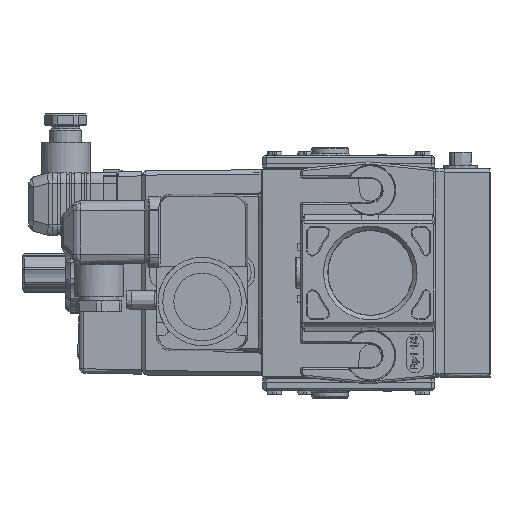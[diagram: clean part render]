
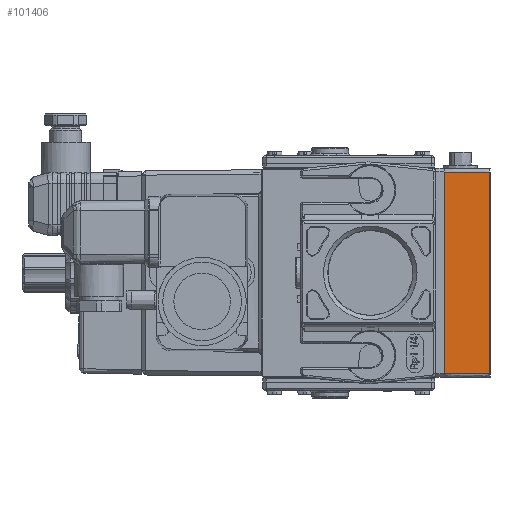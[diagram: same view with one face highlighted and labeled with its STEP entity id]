
A CAD part, left-side view. The second image highlights one B-rep face of the part: STEP entity #101406.
In plain terms, the highlighted planar face has unit normal (1, 0, 0).
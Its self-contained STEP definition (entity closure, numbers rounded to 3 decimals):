
#317 = EDGE_CURVE ( 'NONE', #119576, #90407, #88715, .T. ) ;
#3908 = EDGE_CURVE ( 'NONE', #57159, #119576, #78723, .T. ) ;
#4789 = CARTESIAN_POINT ( 'NONE',  ( -108.928, 46.329, -70.1 ) ) ;
#8202 = DIRECTION ( 'NONE',  ( -1., 0., 0. ) ) ;
#14706 = ORIENTED_EDGE ( 'NONE', *, *, #106606, .F. ) ;
#15677 = DIRECTION ( 'NONE',  ( 0., 0., -1. ) ) ;
#26658 = DIRECTION ( 'NONE',  ( 0., 0., 1. ) ) ;
#28564 = CARTESIAN_POINT ( 'NONE',  ( -108.928, -46.329, -70.1 ) ) ;
#33889 = VECTOR ( 'NONE', #38663, 1000. ) ;
#35661 = CARTESIAN_POINT ( 'NONE',  ( -108.928, 0., -91. ) ) ;
#36807 = CARTESIAN_POINT ( 'NONE',  ( -108.928, -46.329, -80.55 ) ) ;
#38663 = DIRECTION ( 'NONE',  ( 0., 0., 1. ) ) ;
#49826 = ORIENTED_EDGE ( 'NONE', *, *, #129927, .T. ) ;
#51727 = VERTEX_POINT ( 'NONE', #122711 ) ;
#56904 = FACE_OUTER_BOUND ( 'NONE', #128084, .T. ) ;
#57159 = VERTEX_POINT ( 'NONE', #104858 ) ;
#66348 = CARTESIAN_POINT ( 'NONE',  ( -108.928, 0., -70.1 ) ) ;
#68781 = VECTOR ( 'NONE', #104756, 1000. ) ;
#78723 = LINE ( 'NONE', #112143, #33889 ) ;
#84163 = AXIS2_PLACEMENT_3D ( 'NONE', #127426, #8202, #26658 ) ;
#88715 = LINE ( 'NONE', #66348, #98589 ) ;
#90407 = VERTEX_POINT ( 'NONE', #28564 ) ;
#98363 = PLANE ( 'NONE',  #84163 ) ;
#98589 = VECTOR ( 'NONE', #108523, 1000. ) ;
#101406 = ADVANCED_FACE ( 'NONE', ( #56904 ), #98363, .F. ) ;
#104756 = DIRECTION ( 'NONE',  ( 0., -1., 0. ) ) ;
#104858 = CARTESIAN_POINT ( 'NONE',  ( -108.928, 46.329, -91. ) ) ;
#106606 = EDGE_CURVE ( 'NONE', #57159, #51727, #125891, .T. ) ;
#108523 = DIRECTION ( 'NONE',  ( 0., -1., 0. ) ) ;
#112143 = CARTESIAN_POINT ( 'NONE',  ( -108.928, 46.329, -80.55 ) ) ;
#114952 = ORIENTED_EDGE ( 'NONE', *, *, #317, .T. ) ;
#116466 = LINE ( 'NONE', #36807, #126258 ) ;
#119576 = VERTEX_POINT ( 'NONE', #4789 ) ;
#122711 = CARTESIAN_POINT ( 'NONE',  ( -108.928, -46.329, -91. ) ) ;
#125891 = LINE ( 'NONE', #35661, #68781 ) ;
#126258 = VECTOR ( 'NONE', #15677, 1000. ) ;
#127426 = CARTESIAN_POINT ( 'NONE',  ( -108.928, -46.329, -91. ) ) ;
#128084 = EDGE_LOOP ( 'NONE', ( #114952, #49826, #14706, #129230 ) ) ;
#129230 = ORIENTED_EDGE ( 'NONE', *, *, #3908, .T. ) ;
#129927 = EDGE_CURVE ( 'NONE', #90407, #51727, #116466, .T. ) ;
